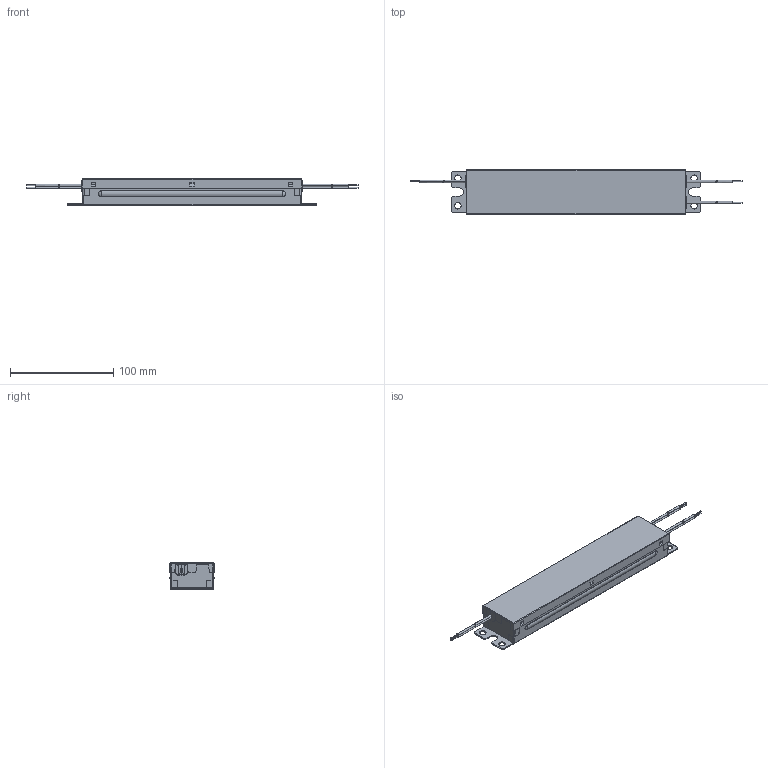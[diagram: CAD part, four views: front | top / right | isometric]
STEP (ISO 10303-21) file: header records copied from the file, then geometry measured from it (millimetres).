
FILE_DESCRIPTION((''),'2;1');
FILE_NAME('15013247Z_DMEC_241X42-9_3X2-300','2019-04-04T16:20:33',('juergen.hrach'),(''),'CREO PARAMETRIC BY PTC INC, 2017380','CREO PARAMETRIC BY PTC INC, 2017380','');
FILE_SCHEMA(('AUTOMOTIVE_DESIGN { 1 0 10303 214 1 1 1 1 }'));
Length unit declared in the file: millimetre
Products named in the file (1): 15013247Z_DMEC_241X42-9_3X2-300
Bounding box: 321.2 x 42.9 x 25.4 mm (x, y, z)
Volume: 19720.2 mm3; surface area: 76174.8 mm2
Topology: 13 solids, 13 shells, 735 faces, 2062 edges, 1349 vertices
Faces by surface type: plane 496, cylinder 223, torus 8, sphere 8
Entity records: 30841 total; most frequent: CARTESIAN_POINT 4987, ORIENTED_EDGE 4124, DIRECTION 3753, PRESENTATION_STYLE_ASSIGNMENT 2075, STYLED_ITEM 2075, CURVE_STYLE 2062, EDGE_CURVE 2062, VECTOR 1565
